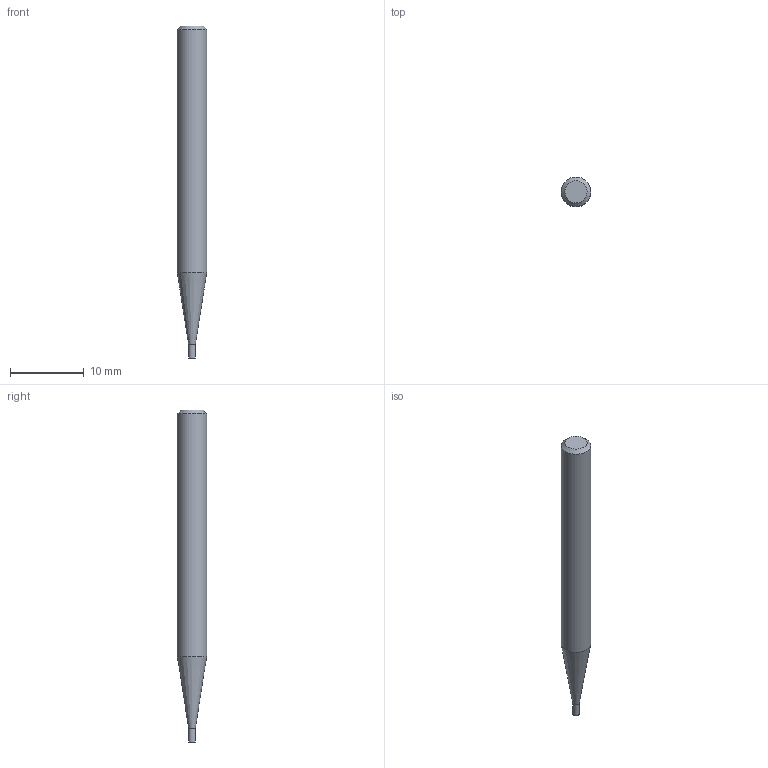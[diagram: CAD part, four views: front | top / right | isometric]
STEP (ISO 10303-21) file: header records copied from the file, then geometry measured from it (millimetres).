
FILE_DESCRIPTION((''),'2;1');
FILE_NAME('C:\Users\nsx150\AppData\Local\Temp\Mastercam 2021\QTW1OOEEGF\TEMP.step','2021-04-08T10:36:15',(''),(''),'STEP Write','Mastercam 2021 ... CNC Software, Inc.','');
FILE_SCHEMA(('AUTOMOTIVE_DESIGN'));
Length unit declared in the file: millimetre
Products named in the file (1): None
Bounding box: 4 x 4 x 45 mm (x, y, z)
Volume: 471.9 mm3; surface area: 511.7 mm2
Topology: 2 solids, 2 shells, 8 faces, 10 edges, 6 vertices
Faces by surface type: plane 4, cylinder 2, cone 2
Full cylindrical faces by diameter (mm): 0.9 x1, 4 x1
Entity records: 190 total; most frequent: DIRECTION 32, CARTESIAN_POINT 22, AXIS2_PLACEMENT_3D 16, ORIENTED_EDGE 12, EDGE_LOOP 12, STYLED_ITEM 11, ADVANCED_FACE 8, VERTEX_POINT 6
